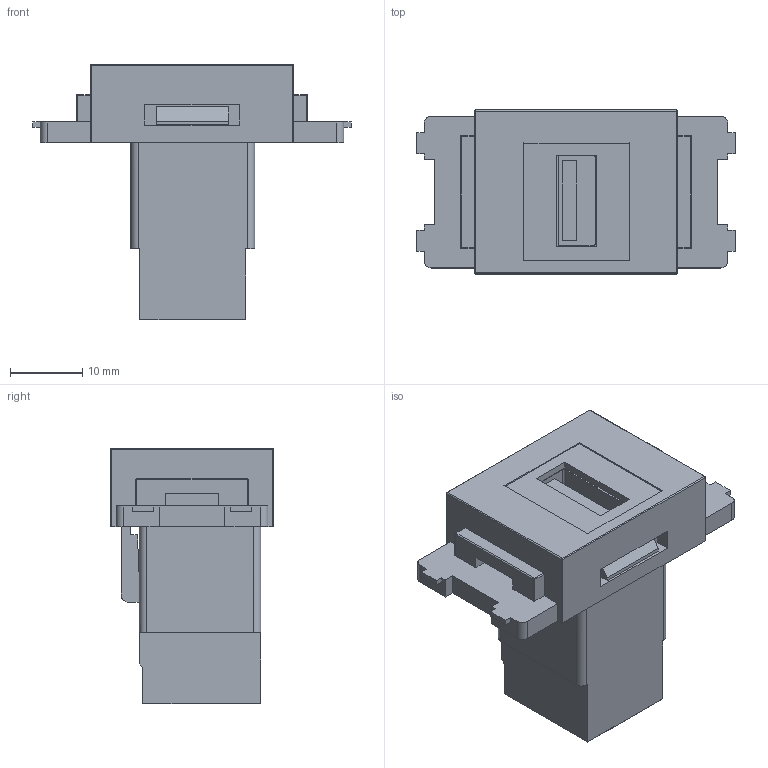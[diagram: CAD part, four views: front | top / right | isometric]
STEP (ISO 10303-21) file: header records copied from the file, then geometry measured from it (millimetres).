
FILE_DESCRIPTION(('FreeCAD Model'),'2;1');
FILE_NAME('Open CASCADE Shape Model','2026-05-12T09:57:01',(''),(''), 'Open CASCADE STEP processor 7.8','FreeCAD','Unknown');
FILE_SCHEMA(('AUTOMOTIVE_DESIGN { 1 0 10303 214 1 1 1 1 }'));
Length unit declared in the file: millimetre
Products named in the file (3): CC_USB3A_XX_KH; SY-NWT-KH-xx; 210USB05N2BK
Assembly tree (2 placements, depth 2):
  CC_USB3A_XX_KH
    SY-NWT-KH-xx
    210USB05N2BK
Bounding box: 43.95 x 22.65 x 35.25 mm (x, y, z)
Volume: 11699.1 mm3; surface area: 8395.5 mm2
Topology: 2 solids, 2 shells, 194 faces, 532 edges, 346 vertices
Faces by surface type: bspline 194
Entity records: 8471 total; most frequent: CARTESIAN_POINT 5161, ORIENTED_EDGE 1064, EDGE_CURVE 532, B_SPLINE_CURVE_WITH_KNOTS 532, VERTEX_POINT 346, FACE_BOUND 208, EDGE_LOOP 208, ADVANCED_FACE 194
